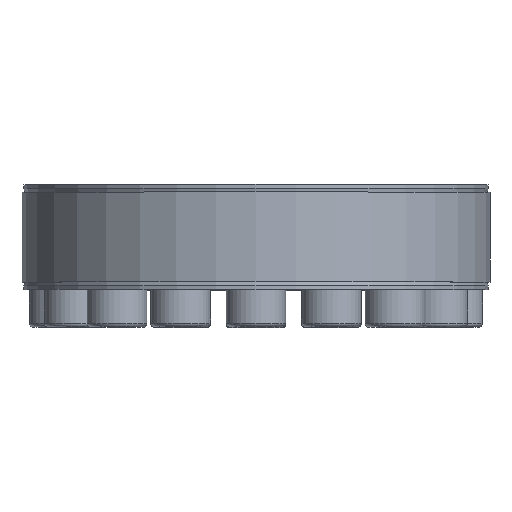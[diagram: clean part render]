
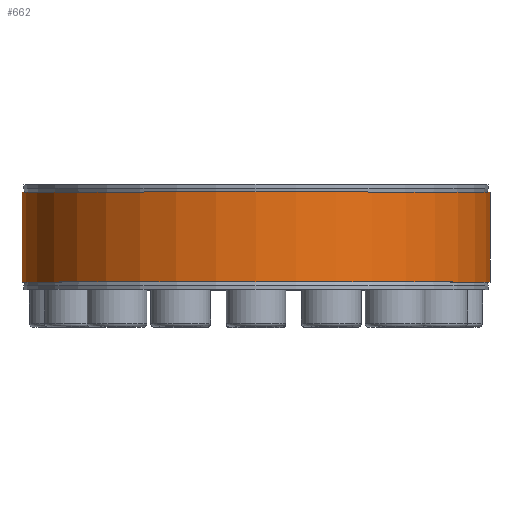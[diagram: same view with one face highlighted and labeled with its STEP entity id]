
A CAD part, top view. The second image highlights one B-rep face of the part: STEP entity #662.
In plain terms, the highlighted cylindrical face has radius 62.5 mm (diameter 125 mm), a partial arc.
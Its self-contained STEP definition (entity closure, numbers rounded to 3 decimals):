
#662 = ADVANCED_FACE( '', ( #1302 ), #1303, .T. );
#1302 = FACE_OUTER_BOUND( '', #2427, .T. );
#1303 = CYLINDRICAL_SURFACE( '', #2428, 62.5 );
#2427 = EDGE_LOOP( '', ( #3640, #3641, #3642, #3643 ) );
#2428 = AXIS2_PLACEMENT_3D( '', #3644, #3645, #3646 );
#3640 = ORIENTED_EDGE( '', *, *, #6217, .F. );
#3641 = ORIENTED_EDGE( '', *, *, #6218, .T. );
#3642 = ORIENTED_EDGE( '', *, *, #6219, .T. );
#3643 = ORIENTED_EDGE( '', *, *, #6220, .F. );
#3644 = CARTESIAN_POINT( '', ( 0., -60., 0. ) );
#3645 = DIRECTION( '', ( 0., -1., 0. ) );
#3646 = DIRECTION( '', ( 0., 0., 1. ) );
#6217 = EDGE_CURVE( '', #6952, #6953, #6954, .F. );
#6218 = EDGE_CURVE( '', #6952, #6955, #6956, .T. );
#6219 = EDGE_CURVE( '', #6955, #6957, #6958, .F. );
#6220 = EDGE_CURVE( '', #6953, #6957, #6959, .T. );
#6952 = VERTEX_POINT( '', #8008 );
#6953 = VERTEX_POINT( '', #8009 );
#6954 = LINE( '', #8010, #8011 );
#6955 = VERTEX_POINT( '', #8012 );
#6956 = CIRCLE( '', #8013, 62.5 );
#6957 = VERTEX_POINT( '', #8014 );
#6958 = LINE( '', #8015, #8016 );
#6959 = CIRCLE( '', #8017, 62.5 );
#8008 = CARTESIAN_POINT( '', ( 1.042, 12., -62.491 ) );
#8009 = CARTESIAN_POINT( '', ( 1.042, -12., -62.491 ) );
#8010 = CARTESIAN_POINT( '', ( 1.042, -60., -62.491 ) );
#8011 = VECTOR( '', #9961, 1000. );
#8012 = CARTESIAN_POINT( '', ( -1.042, 12., -62.491 ) );
#8013 = AXIS2_PLACEMENT_3D( '', #9962, #9963, #9964 );
#8014 = CARTESIAN_POINT( '', ( -1.042, -12., -62.491 ) );
#8015 = CARTESIAN_POINT( '', ( -1.042, -60., -62.491 ) );
#8016 = VECTOR( '', #9965, 1000. );
#8017 = AXIS2_PLACEMENT_3D( '', #9966, #9967, #9968 );
#9961 = DIRECTION( '', ( 0., 1., 0. ) );
#9962 = CARTESIAN_POINT( '', ( 0., 12., 0. ) );
#9963 = DIRECTION( '', ( 0., -1., 0. ) );
#9964 = DIRECTION( '', ( 0., 0., -1. ) );
#9965 = DIRECTION( '', ( 0., 1., 0. ) );
#9966 = CARTESIAN_POINT( '', ( 0., -12., 0. ) );
#9967 = DIRECTION( '', ( 0., -1., 0. ) );
#9968 = DIRECTION( '', ( 0., 0., -1. ) );
